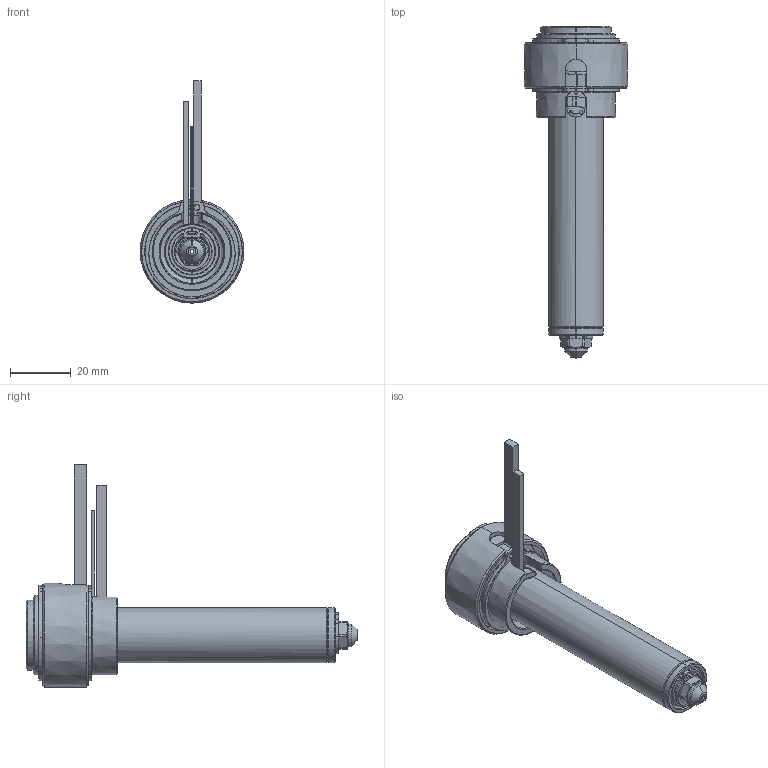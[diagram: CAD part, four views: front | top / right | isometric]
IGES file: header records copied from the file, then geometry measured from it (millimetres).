
Start section: SolidWorks IGES file using analytic representation for surfaces
Global section: file name: C:\Documents and Settings\ws-20\Desktop\TEM\UGER2503-M-A-0 [Øb-1.30 ØC-4.0].IGS; native system: SolidWorks 2012; preprocessor: SolidWorks 2012; author: ws-20; date: 120405.101856; units: millimetre
Bounding box: 34 x 108.9 x 72.9 mm (x, y, z)
Surface area: 24554.8 mm2 (no closed solid volume)
Topology: 0 solids, 0 shells, 191 faces, 2483 edges, 2483 vertices
Faces by surface type: revolution 120, bspline 71
